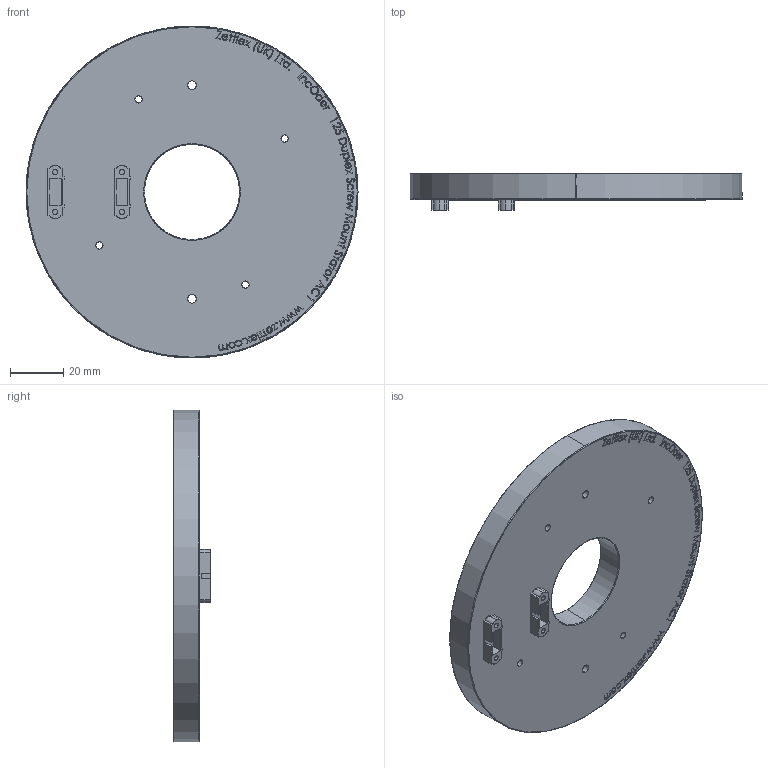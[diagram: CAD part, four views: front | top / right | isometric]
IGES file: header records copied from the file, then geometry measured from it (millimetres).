
Start section: SolidWorks IGES file using analytic representation for surfaces
Global section: file name: C:\Zettlex Data\Mechanical Drawings\1011\125 Duplex Screw Mount Stator AC1 Rev 1-2.IGS; native system: SolidWorks 2015; preprocessor: SolidWorks 2015; author: Nigel; date: 150914.153201; units: millimetre
Bounding box: 125 x 13.8 x 125 mm (x, y, z)
Surface area: 28880 mm2 (no closed solid volume)
Topology: 0 solids, 0 shells, 898 faces, 10549 edges, 10549 vertices
Faces by surface type: bspline 853, revolution 45
